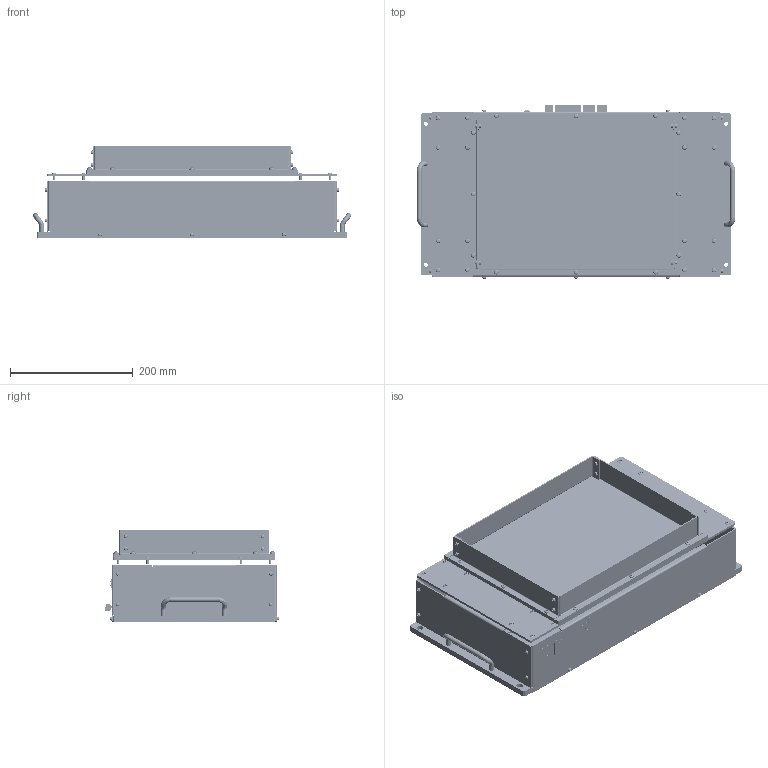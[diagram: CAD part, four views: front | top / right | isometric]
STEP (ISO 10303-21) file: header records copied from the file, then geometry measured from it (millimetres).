
FILE_DESCRIPTION (( 'STEP AP203' ), '1' );
FILE_NAME ('柔性振散盘,QFF-3224,300盘面.STEP', '2022-08-06T09:01:49', ( '' ), ( '' ), 'SwSTEP 2.0', 'SolidWorks 2017', '' );
FILE_SCHEMA (( 'CONFIG_CONTROL_DESIGN' ));
Products named in the file (1): 柔性振散盘,QFF-3224,300盘面
Bounding box: 519.3 x 283.28 x 149 mm (x, y, z)
Volume: 2403808.7 mm3; surface area: 1067628.8 mm2
Topology: 148 solids, 148 shells, 6408 faces, 15724 edges, 10232 vertices
Faces by surface type: plane 3466, cylinder 1368, bspline 1055, cone 369, torus 146, sphere 4
Entity records: 220626 total; most frequent: CARTESIAN_POINT 73331, ORIENTED_EDGE 31432, DIRECTION 27498, EDGE_CURVE 15716, VERTEX_POINT 10232, LINE 10026, VECTOR 10026, AXIS2_PLACEMENT_3D 8736
